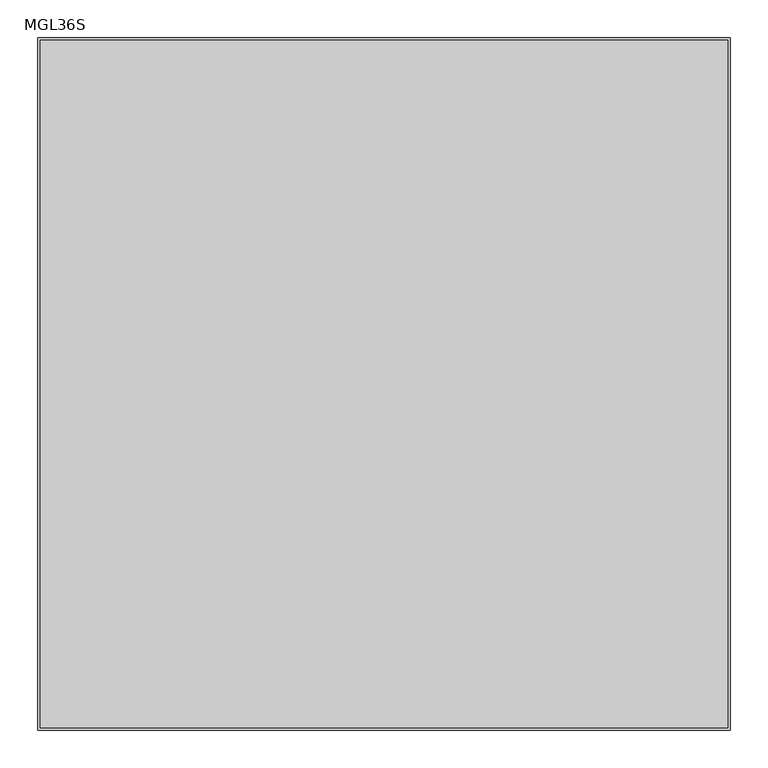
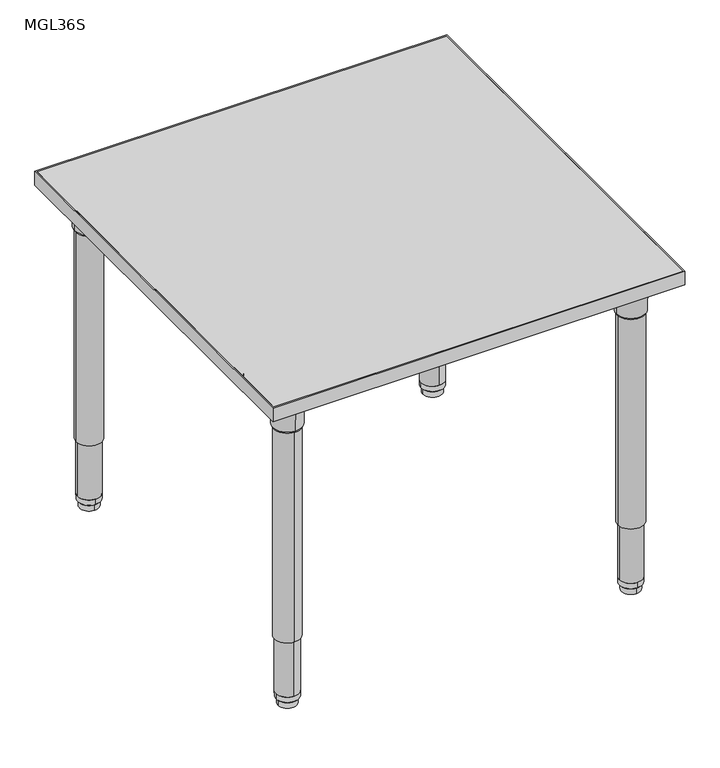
"""IFC4 building model written with IfcOpenShell, lengths in millimetres: furniture geometry, ERG-Mingle-Table-Square : MGL36S."""

from ifc_helpers import new_model, si_unit, point, frame, frame_2d, origin, place, context, project, spatial, polyline, circle_curve, trimmed, segment, composite_curve, outline, extrude, source, transform, mapped, element, save
from ifc_brep_helpers import plane_surface, cylinder_surface, revolved_surface, advanced_brep


def mgl36s_a372faff(model_context):
    return source(origin(), model_context, "Body", "SolidModel", [
        advanced_brep(
        [(350.9646842, -381.0, 650.5933069), (411.0353158, -381.0, 650.5933069), (381.0, -381.0, 650.5933069), (348.856117, -381.0, 654.3580481), (413.143883, -381.0, 654.3580481), (347.9206351, -381.0, 707.7631458), (414.0793649, -381.0, 707.7631458), (344.471083, -381.0, 714.1198315), (417.528917, -381.0, 714.1198315), (344.471083, -381.0, 726.8198315), (417.528917, -381.0, 726.8198315), (381.0, -381.0, 726.8198315)],
        [
            (0, 1, circle_curve(frame((381.0, -381.0, 650.5933069), z_axis=(0.0, 0.0, -1.0), x_axis=(1.0, 0.0, 0.0)), 30.0353158)),
            (1, 2),
            (2, 0),
            (1, 0, circle_curve(frame((381.0, -381.0, 650.5933069), z_axis=(0.0, 0.0, -1.0), x_axis=(1.0, 0.0, 0.0)), 30.0353158)),
            (3, 4, circle_curve(frame((381.0, -381.0, 654.3580481), z_axis=(0.0, 0.0, -1.0), x_axis=(1.0, 0.0, 0.0)), 32.143883)),
            (4, 1),
            (0, 3),
            (4, 3, circle_curve(frame((381.0, -381.0, 654.3580481), z_axis=(0.0, 0.0, -1.0), x_axis=(1.0, 0.0, 0.0)), 32.143883)),
            (5, 6, circle_curve(frame((381.0, -381.0, 707.7631458), z_axis=(0.0, 0.0, -1.0), x_axis=(1.0, 0.0, 0.0)), 33.0793649)),
            (6, 4),
            (3, 5),
            (6, 5, circle_curve(frame((381.0, -381.0, 707.7631458), z_axis=(0.0, 0.0, -1.0), x_axis=(1.0, 0.0, 0.0)), 33.0793649)),
            (7, 8, circle_curve(frame((381.0, -381.0, 714.1198315), z_axis=(0.0, 0.0, -1.0), x_axis=(1.0, 0.0, 0.0)), 36.528917)),
            (8, 6),
            (5, 7),
            (8, 7, circle_curve(frame((381.0, -381.0, 714.1198315), z_axis=(0.0, 0.0, -1.0), x_axis=(1.0, 0.0, 0.0)), 36.528917)),
            (9, 10, circle_curve(frame((381.0, -381.0, 726.8198315), z_axis=(0.0, 0.0, -1.0), x_axis=(1.0, 0.0, 0.0)), 36.528917)),
            (10, 8),
            (7, 9),
            (10, 9, circle_curve(frame((381.0, -381.0, 726.8198315), z_axis=(0.0, 0.0, -1.0), x_axis=(1.0, 0.0, 0.0)), 36.528917)),
            (11, 10),
            (9, 11),
        ],
        [
            plane_surface(frame((381.0, -381.0, 650.5933069), z_axis=(0.0, 0.0, -1.0), x_axis=(1.0, 0.0, 0.0))),
            revolved_surface(polyline([(411.0353158, -381.0, 650.5933069), (413.143883, -381.0, 654.3580481)]), (381.0, -381.0, 726.8198315), (0.0, 0.0, 1.0)),
            revolved_surface(polyline([(413.143883, -381.0, 654.3580481), (414.0793649, -381.0, 707.7631458)]), (381.0, -381.0, 726.8198315), (0.0, 0.0, 1.0)),
            revolved_surface(polyline([(414.0793649, -381.0, 707.7631458), (417.528917, -381.0, 714.1198315)]), (381.0, -381.0, 726.8198315), (0.0, 0.0, 1.0)),
            cylinder_surface(frame((381.0, -381.0, 726.8198315), z_axis=(0.0, 0.0, 1.0), x_axis=(1.0, 0.0, 0.0)), 36.528917),
            plane_surface(frame((381.0, -381.0, 726.8198315), z_axis=(0.0, 0.0, 1.0), x_axis=(1.0, 0.0, 0.0))),
        ],
        [
            (0, [[1, 2, 3]]),
            (0, [[4, -3, -2]]),
            (1, [[5, 6, -1, 7]]),
            (1, [[8, -7, -4, -6]]),
            (2, [[9, 10, -5, 11]]),
            (2, [[12, -11, -8, -10]]),
            (3, [[13, 14, -9, 15]]),
            (3, [[16, -15, -12, -14]]),
            (4, [[17, 18, -13, 19]]),
            (4, [[20, -19, -16, -18]]),
            (5, [[21, -17, 22]]),
            (5, [[-22, -20, -21]]),
        ],
    ),
        extrude(outline(composite_curve([segment(polyline([(426.873768, -298.4223426), (426.873768, -412.1483754)]), True, "CONTINUOUS"), segment(trimmed(circle_curve(frame_2d((410.998768, -412.1483754)), 15.875), [point((426.873768, -412.1483754))], [point((410.998768, -428.0233754))], False, "CARTESIAN"), True, "CONTINUOUS"), segment(polyline([(410.998768, -428.0233754), (297.2864205, -428.0233754)]), True, "CONTINUOUS"), segment(trimmed(circle_curve(frame_2d((297.2864205, -415.3233754)), 12.7), [point((297.2864205, -428.0233754))], [point((284.6491923, -414.0622394))], False, "CARTESIAN"), True, "CONTINUOUS"), segment(trimmed(circle_curve(frame_2d((427.1486077, -428.2830117)), 143.2072406), [point((284.6491923, -414.0622394))], [point((412.9111525, -285.7852622))], False, "CARTESIAN"), True, "CONTINUOUS"), segment(trimmed(circle_curve(frame_2d((414.173768, -298.4223426)), 12.7), [point((412.9111525, -285.7852622))], [point((426.873768, -298.4223426))], False, "CARTESIAN"), True, "CONTINUOUS")], self_intersect=False)), frame((0.0, 0.0, 726.8198315), z_axis=(0.0, 0.0, 1.0), x_axis=(1.0, 0.0, 0.0)), (0.0, 0.0, 1.0), 3.4301685),
        extrude(outline(composite_curve([segment(trimmed(circle_curve(frame_2d((381.0, -381.0)), 28.575), [point((409.575, -381.0))], [point((352.425, -381.0))], False, "CARTESIAN"), True, "CONTINUOUS"), segment(trimmed(circle_curve(frame_2d((381.0, -381.0)), 28.575), [point((352.425, -381.0))], [point((409.575, -381.0))], False, "CARTESIAN"), True, "CONTINUOUS")], self_intersect=False)), frame((0.0, 0.0, 158.3876979), z_axis=(0.0, 0.0, 1.0), x_axis=(1.0, 0.0, 0.0)), (0.0, 0.0, 1.0), 495.4089866),
        extrude(outline(composite_curve([segment(trimmed(circle_curve(frame_2d((381.0, -381.0)), 25.4), [point((406.4, -381.0))], [point((355.6, -381.0))], False, "CARTESIAN"), True, "CONTINUOUS"), segment(trimmed(circle_curve(frame_2d((381.0, -381.0)), 25.4), [point((355.6, -381.0))], [point((406.4, -381.0))], False, "CARTESIAN"), True, "CONTINUOUS")], self_intersect=False)), frame((0.0, 0.0, 28.9580435), z_axis=(0.0, 0.0, 1.0), x_axis=(1.0, 0.0, 0.0)), (0.0, 0.0, 1.0), 176.7049119),
        advanced_brep(
        [(381.0, -355.7649896, 28.9580185), (381.0, -406.2350104, 28.9580185), (381.0, -381.0, 28.9580185), (381.0, -355.900761, 16.3032949), (381.0, -406.099239, 16.3032949), (381.0, -357.4160619, 14.7291007), (381.0, -404.5839381, 14.7291007), (381.0, -359.8591422, 14.7291007), (381.0, -402.1408578, 14.7291007), (381.0, -360.0521336, 0.0), (381.0, -401.9478664, 0.0), (381.0, -381.0, 0.0)],
        [
            (0, 1, circle_curve(frame((381.0, -381.0, 28.9580185), z_axis=(0.0, 0.0, 1.0), x_axis=(0.0, -1.0, 0.0)), 25.2350104)),
            (1, 2),
            (2, 0),
            (1, 0, circle_curve(frame((381.0, -381.0, 28.9580185), z_axis=(0.0, 0.0, 1.0), x_axis=(0.0, -1.0, 0.0)), 25.2350104)),
            (3, 4, circle_curve(frame((381.0, -381.0, 16.3032949), z_axis=(0.0, 0.0, 1.0), x_axis=(0.0, -1.0, 0.0)), 25.099239)),
            (4, 1),
            (0, 3),
            (4, 3, circle_curve(frame((381.0, -381.0, 16.3032949), z_axis=(0.0, 0.0, 1.0), x_axis=(0.0, -1.0, 0.0)), 25.099239)),
            (5, 6, circle_curve(frame((381.0, -381.0, 14.7291007), z_axis=(0.0, 0.0, 1.0), x_axis=(0.0, -1.0, 0.0)), 23.5839381)),
            (6, 4),
            (3, 5),
            (6, 5, circle_curve(frame((381.0, -381.0, 14.7291007), z_axis=(0.0, 0.0, 1.0), x_axis=(0.0, -1.0, 0.0)), 23.5839381)),
            (7, 8, circle_curve(frame((381.0, -381.0, 14.7291007), z_axis=(0.0, 0.0, 1.0), x_axis=(0.0, -1.0, 0.0)), 21.1408578)),
            (8, 6),
            (5, 7),
            (8, 7, circle_curve(frame((381.0, -381.0, 14.7291007), z_axis=(0.0, 0.0, 1.0), x_axis=(0.0, -1.0, 0.0)), 21.1408578)),
            (9, 10, circle_curve(frame((381.0, -381.0, 0.0), z_axis=(0.0, 0.0, 1.0), x_axis=(0.0, -1.0, 0.0)), 20.9478664)),
            (10, 8),
            (7, 9),
            (10, 9, circle_curve(frame((381.0, -381.0, 0.0), z_axis=(0.0, 0.0, 1.0), x_axis=(0.0, -1.0, 0.0)), 20.9478664)),
            (11, 10),
            (9, 11),
        ],
        [
            plane_surface(frame((381.0, -381.0, 28.9580185), z_axis=(0.0, 0.0, 1.0), x_axis=(0.0, -1.0, 0.0))),
            revolved_surface(polyline([(381.0, -406.2350104, 28.9580185), (381.0, -406.099239, 16.3032949)]), (381.0, -381.0, 0.0), (0.0, 0.0, -1.0)),
            revolved_surface(polyline([(381.0, -406.099239, 16.3032949), (381.0, -404.5839381, 14.7291007)]), (381.0, -381.0, 0.0), (0.0, 0.0, -1.0)),
            plane_surface(frame((381.0, -381.0, 14.7291007), z_axis=(0.0, 0.0, -1.0), x_axis=(0.0, -1.0, 0.0))),
            revolved_surface(polyline([(381.0, -402.1408578, 14.7291007), (381.0, -401.9478664, 0.0)]), (381.0, -381.0, 0.0), (0.0, 0.0, -1.0)),
            plane_surface(frame((381.0, -381.0, 0.0), z_axis=(0.0, 0.0, -1.0), x_axis=(0.0, -1.0, 0.0))),
        ],
        [
            (0, [[1, 2, 3]]),
            (0, [[4, -3, -2]]),
            (1, [[5, 6, -1, 7]]),
            (1, [[8, -7, -4, -6]]),
            (2, [[9, 10, -5, 11]]),
            (2, [[12, -11, -8, -10]]),
            (3, [[13, 14, -9, 15]]),
            (3, [[16, -15, -12, -14]]),
            (4, [[17, 18, -13, 19]]),
            (4, [[20, -19, -16, -18]]),
            (5, [[21, -17, 22]]),
            (5, [[-22, -20, -21]]),
        ],
    ),
        advanced_brep(
        [(-381.0, -350.9646842, 650.5933069), (-381.0, -411.0353158, 650.5933069), (-381.0, -381.0, 650.5933069), (-381.0, -348.856117, 654.3580481), (-381.0, -413.143883, 654.3580481), (-381.0, -347.9206351, 707.7631458), (-381.0, -414.0793649, 707.7631458), (-381.0, -344.471083, 714.1198315), (-381.0, -417.528917, 714.1198315), (-381.0, -344.471083, 726.8198315), (-381.0, -417.528917, 726.8198315), (-381.0, -381.0, 726.8198315)],
        [
            (0, 1, circle_curve(frame((-381.0, -381.0, 650.5933069), z_axis=(0.0, 0.0, -1.0), x_axis=(0.0, -1.0, 0.0)), 30.0353158)),
            (1, 2),
            (2, 0),
            (1, 0, circle_curve(frame((-381.0, -381.0, 650.5933069), z_axis=(0.0, 0.0, -1.0), x_axis=(0.0, -1.0, 0.0)), 30.0353158)),
            (3, 4, circle_curve(frame((-381.0, -381.0, 654.3580481), z_axis=(0.0, 0.0, -1.0), x_axis=(0.0, -1.0, 0.0)), 32.143883)),
            (4, 1),
            (0, 3),
            (4, 3, circle_curve(frame((-381.0, -381.0, 654.3580481), z_axis=(0.0, 0.0, -1.0), x_axis=(0.0, -1.0, 0.0)), 32.143883)),
            (5, 6, circle_curve(frame((-381.0, -381.0, 707.7631458), z_axis=(0.0, 0.0, -1.0), x_axis=(0.0, -1.0, 0.0)), 33.0793649)),
            (6, 4),
            (3, 5),
            (6, 5, circle_curve(frame((-381.0, -381.0, 707.7631458), z_axis=(0.0, 0.0, -1.0), x_axis=(0.0, -1.0, 0.0)), 33.0793649)),
            (7, 8, circle_curve(frame((-381.0, -381.0, 714.1198315), z_axis=(0.0, 0.0, -1.0), x_axis=(0.0, -1.0, 0.0)), 36.528917)),
            (8, 6),
            (5, 7),
            (8, 7, circle_curve(frame((-381.0, -381.0, 714.1198315), z_axis=(0.0, 0.0, -1.0), x_axis=(0.0, -1.0, 0.0)), 36.528917)),
            (9, 10, circle_curve(frame((-381.0, -381.0, 726.8198315), z_axis=(0.0, 0.0, -1.0), x_axis=(0.0, -1.0, 0.0)), 36.528917)),
            (10, 8),
            (7, 9),
            (10, 9, circle_curve(frame((-381.0, -381.0, 726.8198315), z_axis=(0.0, 0.0, -1.0), x_axis=(0.0, -1.0, 0.0)), 36.528917)),
            (11, 10),
            (9, 11),
        ],
        [
            plane_surface(frame((-381.0, -381.0, 650.5933069), z_axis=(0.0, 0.0, -1.0), x_axis=(0.0, -1.0, 0.0))),
            revolved_surface(polyline([(-381.0, -411.0353158, 650.5933069), (-381.0, -413.143883, 654.3580481)]), (-381.0, -381.0, 726.8198315), (0.0, 0.0, 1.0)),
            revolved_surface(polyline([(-381.0, -413.143883, 654.3580481), (-381.0, -414.0793649, 707.7631458)]), (-381.0, -381.0, 726.8198315), (0.0, 0.0, 1.0)),
            revolved_surface(polyline([(-381.0, -414.0793649, 707.7631458), (-381.0, -417.528917, 714.1198315)]), (-381.0, -381.0, 726.8198315), (0.0, 0.0, 1.0)),
            cylinder_surface(frame((-381.0, -381.0, 726.8198315), z_axis=(0.0, 0.0, 1.0), x_axis=(0.0, -1.0, 0.0)), 36.528917),
            plane_surface(frame((-381.0, -381.0, 726.8198315), z_axis=(0.0, 0.0, 1.0), x_axis=(0.0, -1.0, 0.0))),
        ],
        [
            (0, [[1, 2, 3]]),
            (0, [[4, -3, -2]]),
            (1, [[5, 6, -1, 7]]),
            (1, [[8, -7, -4, -6]]),
            (2, [[9, 10, -5, 11]]),
            (2, [[12, -11, -8, -10]]),
            (3, [[13, 14, -9, 15]]),
            (3, [[16, -15, -12, -14]]),
            (4, [[17, 18, -13, 19]]),
            (4, [[20, -19, -16, -18]]),
            (5, [[21, -17, 22]]),
            (5, [[-22, -20, -21]]),
        ],
    ),
        extrude(outline(composite_curve([segment(polyline([(-298.4223426, -426.873768), (-412.1483754, -426.873768)]), True, "CONTINUOUS"), segment(trimmed(circle_curve(frame_2d((-412.1483754, -410.998768)), 15.875), [point((-412.1483754, -426.873768))], [point((-428.0233754, -410.998768))], False, "CARTESIAN"), True, "CONTINUOUS"), segment(polyline([(-428.0233754, -410.998768), (-428.0233754, -297.2864205)]), True, "CONTINUOUS"), segment(trimmed(circle_curve(frame_2d((-415.3233754, -297.2864205)), 12.7), [point((-428.0233754, -297.2864205))], [point((-414.0622394, -284.6491923))], False, "CARTESIAN"), True, "CONTINUOUS"), segment(trimmed(circle_curve(frame_2d((-428.2830117, -427.1486077)), 143.2072406), [point((-414.0622394, -284.6491923))], [point((-285.7852622, -412.9111525))], False, "CARTESIAN"), True, "CONTINUOUS"), segment(trimmed(circle_curve(frame_2d((-298.4223426, -414.173768)), 12.7), [point((-285.7852622, -412.9111525))], [point((-298.4223426, -426.873768))], False, "CARTESIAN"), True, "CONTINUOUS")], self_intersect=False)), frame((0.0, 0.0, 726.8198315), z_axis=(0.0, 0.0, 1.0), x_axis=(1.0, 0.0, 0.0)), (0.0, 0.0, 1.0), 3.4301685),
        extrude(outline(composite_curve([segment(trimmed(circle_curve(frame_2d((-381.0, -381.0)), 28.575), [point((-381.0, -409.575))], [point((-381.0, -352.425))], False, "CARTESIAN"), True, "CONTINUOUS"), segment(trimmed(circle_curve(frame_2d((-381.0, -381.0)), 28.575), [point((-381.0, -352.425))], [point((-381.0, -409.575))], False, "CARTESIAN"), True, "CONTINUOUS")], self_intersect=False)), frame((0.0, 0.0, 158.3876979), z_axis=(0.0, 0.0, 1.0), x_axis=(1.0, 0.0, 0.0)), (0.0, 0.0, 1.0), 495.4089866),
        extrude(outline(composite_curve([segment(trimmed(circle_curve(frame_2d((-381.0, -381.0)), 25.4), [point((-381.0, -406.4))], [point((-381.0, -355.6))], False, "CARTESIAN"), True, "CONTINUOUS"), segment(trimmed(circle_curve(frame_2d((-381.0, -381.0)), 25.4), [point((-381.0, -355.6))], [point((-381.0, -406.4))], False, "CARTESIAN"), True, "CONTINUOUS")], self_intersect=False)), frame((0.0, 0.0, 28.9580435), z_axis=(0.0, 0.0, 1.0), x_axis=(1.0, 0.0, 0.0)), (0.0, 0.0, 1.0), 176.7049119),
        advanced_brep(
        [(-355.7649896, -381.0, 28.9580185), (-406.2350104, -381.0, 28.9580185), (-381.0, -381.0, 28.9580185), (-355.900761, -381.0, 16.3032949), (-406.099239, -381.0, 16.3032949), (-357.4160619, -381.0, 14.7291007), (-404.5839381, -381.0, 14.7291007), (-359.8591422, -381.0, 14.7291007), (-402.1408578, -381.0, 14.7291007), (-360.0521336, -381.0, 0.0), (-401.9478664, -381.0, 0.0), (-381.0, -381.0, 0.0)],
        [
            (0, 1, circle_curve(frame((-381.0, -381.0, 28.9580185), z_axis=(0.0, 0.0, 1.0), x_axis=(-1.0, 0.0, 0.0)), 25.2350104)),
            (1, 2),
            (2, 0),
            (1, 0, circle_curve(frame((-381.0, -381.0, 28.9580185), z_axis=(0.0, 0.0, 1.0), x_axis=(-1.0, 0.0, 0.0)), 25.2350104)),
            (3, 4, circle_curve(frame((-381.0, -381.0, 16.3032949), z_axis=(0.0, 0.0, 1.0), x_axis=(-1.0, 0.0, 0.0)), 25.099239)),
            (4, 1),
            (0, 3),
            (4, 3, circle_curve(frame((-381.0, -381.0, 16.3032949), z_axis=(0.0, 0.0, 1.0), x_axis=(-1.0, 0.0, 0.0)), 25.099239)),
            (5, 6, circle_curve(frame((-381.0, -381.0, 14.7291007), z_axis=(0.0, 0.0, 1.0), x_axis=(-1.0, 0.0, 0.0)), 23.5839381)),
            (6, 4),
            (3, 5),
            (6, 5, circle_curve(frame((-381.0, -381.0, 14.7291007), z_axis=(0.0, 0.0, 1.0), x_axis=(-1.0, 0.0, 0.0)), 23.5839381)),
            (7, 8, circle_curve(frame((-381.0, -381.0, 14.7291007), z_axis=(0.0, 0.0, 1.0), x_axis=(-1.0, 0.0, 0.0)), 21.1408578)),
            (8, 6),
            (5, 7),
            (8, 7, circle_curve(frame((-381.0, -381.0, 14.7291007), z_axis=(0.0, 0.0, 1.0), x_axis=(-1.0, 0.0, 0.0)), 21.1408578)),
            (9, 10, circle_curve(frame((-381.0, -381.0, 0.0), z_axis=(0.0, 0.0, 1.0), x_axis=(-1.0, 0.0, 0.0)), 20.9478664)),
            (10, 8),
            (7, 9),
            (10, 9, circle_curve(frame((-381.0, -381.0, 0.0), z_axis=(0.0, 0.0, 1.0), x_axis=(-1.0, 0.0, 0.0)), 20.9478664)),
            (11, 10),
            (9, 11),
        ],
        [
            plane_surface(frame((-381.0, -381.0, 28.9580185), z_axis=(0.0, 0.0, 1.0), x_axis=(-1.0, 0.0, 0.0))),
            revolved_surface(polyline([(-406.2350104, -381.0, 28.9580185), (-406.099239, -381.0, 16.3032949)]), (-381.0, -381.0, 0.0), (0.0, 0.0, -1.0)),
            revolved_surface(polyline([(-406.099239, -381.0, 16.3032949), (-404.5839381, -381.0, 14.7291007)]), (-381.0, -381.0, 0.0), (0.0, 0.0, -1.0)),
            plane_surface(frame((-381.0, -381.0, 14.7291007), z_axis=(0.0, 0.0, -1.0), x_axis=(-1.0, 0.0, 0.0))),
            revolved_surface(polyline([(-402.1408578, -381.0, 14.7291007), (-401.9478664, -381.0, 0.0)]), (-381.0, -381.0, 0.0), (0.0, 0.0, -1.0)),
            plane_surface(frame((-381.0, -381.0, 0.0), z_axis=(0.0, 0.0, -1.0), x_axis=(-1.0, 0.0, 0.0))),
        ],
        [
            (0, [[1, 2, 3]]),
            (0, [[4, -3, -2]]),
            (1, [[5, 6, -1, 7]]),
            (1, [[8, -7, -4, -6]]),
            (2, [[9, 10, -5, 11]]),
            (2, [[12, -11, -8, -10]]),
            (3, [[13, 14, -9, 15]]),
            (3, [[16, -15, -12, -14]]),
            (4, [[17, 18, -13, 19]]),
            (4, [[20, -19, -16, -18]]),
            (5, [[21, -17, 22]]),
            (5, [[-22, -20, -21]]),
        ],
    ),
        advanced_brep(
        [(381.0, 350.9646842, 650.5933069), (381.0, 411.0353158, 650.5933069), (381.0, 381.0, 650.5933069), (381.0, 348.856117, 654.3580481), (381.0, 413.143883, 654.3580481), (381.0, 347.9206351, 707.7631458), (381.0, 414.0793649, 707.7631458), (381.0, 344.471083, 714.1198315), (381.0, 417.528917, 714.1198315), (381.0, 344.471083, 726.8198315), (381.0, 417.528917, 726.8198315), (381.0, 381.0, 726.8198315)],
        [
            (0, 1, circle_curve(frame((381.0, 381.0, 650.5933069), z_axis=(0.0, 0.0, -1.0), x_axis=(0.0, 1.0, 0.0)), 30.0353158)),
            (1, 2),
            (2, 0),
            (1, 0, circle_curve(frame((381.0, 381.0, 650.5933069), z_axis=(0.0, 0.0, -1.0), x_axis=(0.0, 1.0, 0.0)), 30.0353158)),
            (3, 4, circle_curve(frame((381.0, 381.0, 654.3580481), z_axis=(0.0, 0.0, -1.0), x_axis=(0.0, 1.0, 0.0)), 32.143883)),
            (4, 1),
            (0, 3),
            (4, 3, circle_curve(frame((381.0, 381.0, 654.3580481), z_axis=(0.0, 0.0, -1.0), x_axis=(0.0, 1.0, 0.0)), 32.143883)),
            (5, 6, circle_curve(frame((381.0, 381.0, 707.7631458), z_axis=(0.0, 0.0, -1.0), x_axis=(0.0, 1.0, 0.0)), 33.0793649)),
            (6, 4),
            (3, 5),
            (6, 5, circle_curve(frame((381.0, 381.0, 707.7631458), z_axis=(0.0, 0.0, -1.0), x_axis=(0.0, 1.0, 0.0)), 33.0793649)),
            (7, 8, circle_curve(frame((381.0, 381.0, 714.1198315), z_axis=(0.0, 0.0, -1.0), x_axis=(0.0, 1.0, 0.0)), 36.528917)),
            (8, 6),
            (5, 7),
            (8, 7, circle_curve(frame((381.0, 381.0, 714.1198315), z_axis=(0.0, 0.0, -1.0), x_axis=(0.0, 1.0, 0.0)), 36.528917)),
            (9, 10, circle_curve(frame((381.0, 381.0, 726.8198315), z_axis=(0.0, 0.0, -1.0), x_axis=(0.0, 1.0, 0.0)), 36.528917)),
            (10, 8),
            (7, 9),
            (10, 9, circle_curve(frame((381.0, 381.0, 726.8198315), z_axis=(0.0, 0.0, -1.0), x_axis=(0.0, 1.0, 0.0)), 36.528917)),
            (11, 10),
            (9, 11),
        ],
        [
            plane_surface(frame((381.0, 381.0, 650.5933069), z_axis=(0.0, 0.0, -1.0), x_axis=(0.0, 1.0, 0.0))),
            revolved_surface(polyline([(381.0, 411.0353158, 650.5933069), (381.0, 413.143883, 654.3580481)]), (381.0, 381.0, 726.8198315), (0.0, 0.0, 1.0)),
            revolved_surface(polyline([(381.0, 413.143883, 654.3580481), (381.0, 414.0793649, 707.7631458)]), (381.0, 381.0, 726.8198315), (0.0, 0.0, 1.0)),
            revolved_surface(polyline([(381.0, 414.0793649, 707.7631458), (381.0, 417.528917, 714.1198315)]), (381.0, 381.0, 726.8198315), (0.0, 0.0, 1.0)),
            cylinder_surface(frame((381.0, 381.0, 726.8198315), z_axis=(0.0, 0.0, 1.0), x_axis=(0.0, 1.0, 0.0)), 36.528917),
            plane_surface(frame((381.0, 381.0, 726.8198315), z_axis=(0.0, 0.0, 1.0), x_axis=(0.0, 1.0, 0.0))),
        ],
        [
            (0, [[1, 2, 3]]),
            (0, [[4, -3, -2]]),
            (1, [[5, 6, -1, 7]]),
            (1, [[8, -7, -4, -6]]),
            (2, [[9, 10, -5, 11]]),
            (2, [[12, -11, -8, -10]]),
            (3, [[13, 14, -9, 15]]),
            (3, [[16, -15, -12, -14]]),
            (4, [[17, 18, -13, 19]]),
            (4, [[20, -19, -16, -18]]),
            (5, [[21, -17, 22]]),
            (5, [[-22, -20, -21]]),
        ],
    ),
        extrude(outline(composite_curve([segment(polyline([(298.4223426, 426.873768), (412.1483754, 426.873768)]), True, "CONTINUOUS"), segment(trimmed(circle_curve(frame_2d((412.1483754, 410.998768)), 15.875), [point((412.1483754, 426.873768))], [point((428.0233754, 410.998768))], False, "CARTESIAN"), True, "CONTINUOUS"), segment(polyline([(428.0233754, 410.998768), (428.0233754, 297.2864205)]), True, "CONTINUOUS"), segment(trimmed(circle_curve(frame_2d((415.3233754, 297.2864205)), 12.7), [point((428.0233754, 297.2864205))], [point((414.0622394, 284.6491923))], False, "CARTESIAN"), True, "CONTINUOUS"), segment(trimmed(circle_curve(frame_2d((428.2830117, 427.1486077)), 143.2072406), [point((414.0622394, 284.6491923))], [point((285.7852622, 412.9111525))], False, "CARTESIAN"), True, "CONTINUOUS"), segment(trimmed(circle_curve(frame_2d((298.4223426, 414.173768)), 12.7), [point((285.7852622, 412.9111525))], [point((298.4223426, 426.873768))], False, "CARTESIAN"), True, "CONTINUOUS")], self_intersect=False)), frame((0.0, 0.0, 726.8198315), z_axis=(0.0, 0.0, 1.0), x_axis=(1.0, 0.0, 0.0)), (0.0, 0.0, 1.0), 3.4301685),
        extrude(outline(composite_curve([segment(trimmed(circle_curve(frame_2d((381.0, 381.0)), 28.575), [point((381.0, 409.575))], [point((381.0, 352.425))], False, "CARTESIAN"), True, "CONTINUOUS"), segment(trimmed(circle_curve(frame_2d((381.0, 381.0)), 28.575), [point((381.0, 352.425))], [point((381.0, 409.575))], False, "CARTESIAN"), True, "CONTINUOUS")], self_intersect=False)), frame((0.0, 0.0, 158.3876979), z_axis=(0.0, 0.0, 1.0), x_axis=(1.0, 0.0, 0.0)), (0.0, 0.0, 1.0), 495.4089866),
        extrude(outline(composite_curve([segment(trimmed(circle_curve(frame_2d((381.0, 381.0)), 25.4), [point((381.0, 406.4))], [point((381.0, 355.6))], False, "CARTESIAN"), True, "CONTINUOUS"), segment(trimmed(circle_curve(frame_2d((381.0, 381.0)), 25.4), [point((381.0, 355.6))], [point((381.0, 406.4))], False, "CARTESIAN"), True, "CONTINUOUS")], self_intersect=False)), frame((0.0, 0.0, 28.9580435), z_axis=(0.0, 0.0, 1.0), x_axis=(1.0, 0.0, 0.0)), (0.0, 0.0, 1.0), 176.7049119),
        advanced_brep(
        [(355.7649896, 381.0, 28.9580185), (406.2350104, 381.0, 28.9580185), (381.0, 381.0, 28.9580185), (355.900761, 381.0, 16.3032949), (406.099239, 381.0, 16.3032949), (357.4160619, 381.0, 14.7291007), (404.5839381, 381.0, 14.7291007), (359.8591422, 381.0, 14.7291007), (402.1408578, 381.0, 14.7291007), (360.0521336, 381.0, 0.0), (401.9478664, 381.0, 0.0), (381.0, 381.0, 0.0)],
        [
            (0, 1, circle_curve(frame((381.0, 381.0, 28.9580185), z_axis=(0.0, 0.0, 1.0), x_axis=(1.0, 0.0, 0.0)), 25.2350104)),
            (1, 2),
            (2, 0),
            (1, 0, circle_curve(frame((381.0, 381.0, 28.9580185), z_axis=(0.0, 0.0, 1.0), x_axis=(1.0, 0.0, 0.0)), 25.2350104)),
            (3, 4, circle_curve(frame((381.0, 381.0, 16.3032949), z_axis=(0.0, 0.0, 1.0), x_axis=(1.0, 0.0, 0.0)), 25.099239)),
            (4, 1),
            (0, 3),
            (4, 3, circle_curve(frame((381.0, 381.0, 16.3032949), z_axis=(0.0, 0.0, 1.0), x_axis=(1.0, 0.0, 0.0)), 25.099239)),
            (5, 6, circle_curve(frame((381.0, 381.0, 14.7291007), z_axis=(0.0, 0.0, 1.0), x_axis=(1.0, 0.0, 0.0)), 23.5839381)),
            (6, 4),
            (3, 5),
            (6, 5, circle_curve(frame((381.0, 381.0, 14.7291007), z_axis=(0.0, 0.0, 1.0), x_axis=(1.0, 0.0, 0.0)), 23.5839381)),
            (7, 8, circle_curve(frame((381.0, 381.0, 14.7291007), z_axis=(0.0, 0.0, 1.0), x_axis=(1.0, 0.0, 0.0)), 21.1408578)),
            (8, 6),
            (5, 7),
            (8, 7, circle_curve(frame((381.0, 381.0, 14.7291007), z_axis=(0.0, 0.0, 1.0), x_axis=(1.0, 0.0, 0.0)), 21.1408578)),
            (9, 10, circle_curve(frame((381.0, 381.0, 0.0), z_axis=(0.0, 0.0, 1.0), x_axis=(1.0, 0.0, 0.0)), 20.9478664)),
            (10, 8),
            (7, 9),
            (10, 9, circle_curve(frame((381.0, 381.0, 0.0), z_axis=(0.0, 0.0, 1.0), x_axis=(1.0, 0.0, 0.0)), 20.9478664)),
            (11, 10),
            (9, 11),
        ],
        [
            plane_surface(frame((381.0, 381.0, 28.9580185), z_axis=(0.0, 0.0, 1.0), x_axis=(1.0, 0.0, 0.0))),
            revolved_surface(polyline([(406.2350104, 381.0, 28.9580185), (406.099239, 381.0, 16.3032949)]), (381.0, 381.0, 0.0), (0.0, 0.0, -1.0)),
            revolved_surface(polyline([(406.099239, 381.0, 16.3032949), (404.5839381, 381.0, 14.7291007)]), (381.0, 381.0, 0.0), (0.0, 0.0, -1.0)),
            plane_surface(frame((381.0, 381.0, 14.7291007), z_axis=(0.0, 0.0, -1.0), x_axis=(1.0, 0.0, 0.0))),
            revolved_surface(polyline([(402.1408578, 381.0, 14.7291007), (401.9478664, 381.0, 0.0)]), (381.0, 381.0, 0.0), (0.0, 0.0, -1.0)),
            plane_surface(frame((381.0, 381.0, 0.0), z_axis=(0.0, 0.0, -1.0), x_axis=(1.0, 0.0, 0.0))),
        ],
        [
            (0, [[1, 2, 3]]),
            (0, [[4, -3, -2]]),
            (1, [[5, 6, -1, 7]]),
            (1, [[8, -7, -4, -6]]),
            (2, [[9, 10, -5, 11]]),
            (2, [[12, -11, -8, -10]]),
            (3, [[13, 14, -9, 15]]),
            (3, [[16, -15, -12, -14]]),
            (4, [[17, 18, -13, 19]]),
            (4, [[20, -19, -16, -18]]),
            (5, [[21, -17, 22]]),
            (5, [[-22, -20, -21]]),
        ],
    ),
        advanced_brep(
        [(-350.9646842, 381.0, 650.5933069), (-411.0353158, 381.0, 650.5933069), (-381.0, 381.0, 650.5933069), (-348.856117, 381.0, 654.3580481), (-413.143883, 381.0, 654.3580481), (-347.9206351, 381.0, 707.7631458), (-414.0793649, 381.0, 707.7631458), (-344.471083, 381.0, 714.1198315), (-417.528917, 381.0, 714.1198315), (-344.471083, 381.0, 726.8198315), (-417.528917, 381.0, 726.8198315), (-381.0, 381.0, 726.8198315)],
        [
            (0, 1, circle_curve(frame((-381.0, 381.0, 650.5933069), z_axis=(0.0, 0.0, -1.0), x_axis=(-1.0, 0.0, 0.0)), 30.0353158)),
            (1, 2),
            (2, 0),
            (1, 0, circle_curve(frame((-381.0, 381.0, 650.5933069), z_axis=(0.0, 0.0, -1.0), x_axis=(-1.0, 0.0, 0.0)), 30.0353158)),
            (3, 4, circle_curve(frame((-381.0, 381.0, 654.3580481), z_axis=(0.0, 0.0, -1.0), x_axis=(-1.0, 0.0, 0.0)), 32.143883)),
            (4, 1),
            (0, 3),
            (4, 3, circle_curve(frame((-381.0, 381.0, 654.3580481), z_axis=(0.0, 0.0, -1.0), x_axis=(-1.0, 0.0, 0.0)), 32.143883)),
            (5, 6, circle_curve(frame((-381.0, 381.0, 707.7631458), z_axis=(0.0, 0.0, -1.0), x_axis=(-1.0, 0.0, 0.0)), 33.0793649)),
            (6, 4),
            (3, 5),
            (6, 5, circle_curve(frame((-381.0, 381.0, 707.7631458), z_axis=(0.0, 0.0, -1.0), x_axis=(-1.0, 0.0, 0.0)), 33.0793649)),
            (7, 8, circle_curve(frame((-381.0, 381.0, 714.1198315), z_axis=(0.0, 0.0, -1.0), x_axis=(-1.0, 0.0, 0.0)), 36.528917)),
            (8, 6),
            (5, 7),
            (8, 7, circle_curve(frame((-381.0, 381.0, 714.1198315), z_axis=(0.0, 0.0, -1.0), x_axis=(-1.0, 0.0, 0.0)), 36.528917)),
            (9, 10, circle_curve(frame((-381.0, 381.0, 726.8198315), z_axis=(0.0, 0.0, -1.0), x_axis=(-1.0, 0.0, 0.0)), 36.528917)),
            (10, 8),
            (7, 9),
            (10, 9, circle_curve(frame((-381.0, 381.0, 726.8198315), z_axis=(0.0, 0.0, -1.0), x_axis=(-1.0, 0.0, 0.0)), 36.528917)),
            (11, 10),
            (9, 11),
        ],
        [
            plane_surface(frame((-381.0, 381.0, 650.5933069), z_axis=(0.0, 0.0, -1.0), x_axis=(-1.0, 0.0, 0.0))),
            revolved_surface(polyline([(-411.0353158, 381.0, 650.5933069), (-413.143883, 381.0, 654.3580481)]), (-381.0, 381.0, 726.8198315), (0.0, 0.0, 1.0)),
            revolved_surface(polyline([(-413.143883, 381.0, 654.3580481), (-414.0793649, 381.0, 707.7631458)]), (-381.0, 381.0, 726.8198315), (0.0, 0.0, 1.0)),
            revolved_surface(polyline([(-414.0793649, 381.0, 707.7631458), (-417.528917, 381.0, 714.1198315)]), (-381.0, 381.0, 726.8198315), (0.0, 0.0, 1.0)),
            cylinder_surface(frame((-381.0, 381.0, 726.8198315), z_axis=(0.0, 0.0, 1.0), x_axis=(-1.0, 0.0, 0.0)), 36.528917),
            plane_surface(frame((-381.0, 381.0, 726.8198315), z_axis=(0.0, 0.0, 1.0), x_axis=(-1.0, 0.0, 0.0))),
        ],
        [
            (0, [[1, 2, 3]]),
            (0, [[4, -3, -2]]),
            (1, [[5, 6, -1, 7]]),
            (1, [[8, -7, -4, -6]]),
            (2, [[9, 10, -5, 11]]),
            (2, [[12, -11, -8, -10]]),
            (3, [[13, 14, -9, 15]]),
            (3, [[16, -15, -12, -14]]),
            (4, [[17, 18, -13, 19]]),
            (4, [[20, -19, -16, -18]]),
            (5, [[21, -17, 22]]),
            (5, [[-22, -20, -21]]),
        ],
    ),
        extrude(outline(composite_curve([segment(polyline([(-426.873768, 298.4223426), (-426.873768, 412.1483754)]), True, "CONTINUOUS"), segment(trimmed(circle_curve(frame_2d((-410.998768, 412.1483754)), 15.875), [point((-426.873768, 412.1483754))], [point((-410.998768, 428.0233754))], False, "CARTESIAN"), True, "CONTINUOUS"), segment(polyline([(-410.998768, 428.0233754), (-297.2864205, 428.0233754)]), True, "CONTINUOUS"), segment(trimmed(circle_curve(frame_2d((-297.2864205, 415.3233754)), 12.7), [point((-297.2864205, 428.0233754))], [point((-284.6491923, 414.0622394))], False, "CARTESIAN"), True, "CONTINUOUS"), segment(trimmed(circle_curve(frame_2d((-427.1486077, 428.2830117)), 143.2072406), [point((-284.6491923, 414.0622394))], [point((-412.9111525, 285.7852622))], False, "CARTESIAN"), True, "CONTINUOUS"), segment(trimmed(circle_curve(frame_2d((-414.173768, 298.4223426)), 12.7), [point((-412.9111525, 285.7852622))], [point((-426.873768, 298.4223426))], False, "CARTESIAN"), True, "CONTINUOUS")], self_intersect=False)), frame((0.0, 0.0, 726.8198315), z_axis=(0.0, 0.0, 1.0), x_axis=(1.0, 0.0, 0.0)), (0.0, 0.0, 1.0), 3.4301685),
        extrude(outline(composite_curve([segment(trimmed(circle_curve(frame_2d((-381.0, 381.0)), 28.575), [point((-409.575, 381.0))], [point((-352.425, 381.0))], False, "CARTESIAN"), True, "CONTINUOUS"), segment(trimmed(circle_curve(frame_2d((-381.0, 381.0)), 28.575), [point((-352.425, 381.0))], [point((-409.575, 381.0))], False, "CARTESIAN"), True, "CONTINUOUS")], self_intersect=False)), frame((0.0, 0.0, 158.3876979), z_axis=(0.0, 0.0, 1.0), x_axis=(1.0, 0.0, 0.0)), (0.0, 0.0, 1.0), 495.4089866),
        extrude(outline(composite_curve([segment(trimmed(circle_curve(frame_2d((-381.0, 381.0)), 25.4), [point((-406.4, 381.0))], [point((-355.6, 381.0))], False, "CARTESIAN"), True, "CONTINUOUS"), segment(trimmed(circle_curve(frame_2d((-381.0, 381.0)), 25.4), [point((-355.6, 381.0))], [point((-406.4, 381.0))], False, "CARTESIAN"), True, "CONTINUOUS")], self_intersect=False)), frame((0.0, 0.0, 28.9580435), z_axis=(0.0, 0.0, 1.0), x_axis=(1.0, 0.0, 0.0)), (0.0, 0.0, 1.0), 176.7049119),
        advanced_brep(
        [(-381.0, 355.7649896, 28.9580185), (-381.0, 406.2350104, 28.9580185), (-381.0, 381.0, 28.9580185), (-381.0, 355.900761, 16.3032949), (-381.0, 406.099239, 16.3032949), (-381.0, 357.4160619, 14.7291007), (-381.0, 404.5839381, 14.7291007), (-381.0, 359.8591422, 14.7291007), (-381.0, 402.1408578, 14.7291007), (-381.0, 360.0521336, 0.0), (-381.0, 401.9478664, 0.0), (-381.0, 381.0, 0.0)],
        [
            (0, 1, circle_curve(frame((-381.0, 381.0, 28.9580185), z_axis=(0.0, 0.0, 1.0), x_axis=(0.0, 1.0, 0.0)), 25.2350104)),
            (1, 2),
            (2, 0),
            (1, 0, circle_curve(frame((-381.0, 381.0, 28.9580185), z_axis=(0.0, 0.0, 1.0), x_axis=(0.0, 1.0, 0.0)), 25.2350104)),
            (3, 4, circle_curve(frame((-381.0, 381.0, 16.3032949), z_axis=(0.0, 0.0, 1.0), x_axis=(0.0, 1.0, 0.0)), 25.099239)),
            (4, 1),
            (0, 3),
            (4, 3, circle_curve(frame((-381.0, 381.0, 16.3032949), z_axis=(0.0, 0.0, 1.0), x_axis=(0.0, 1.0, 0.0)), 25.099239)),
            (5, 6, circle_curve(frame((-381.0, 381.0, 14.7291007), z_axis=(0.0, 0.0, 1.0), x_axis=(0.0, 1.0, 0.0)), 23.5839381)),
            (6, 4),
            (3, 5),
            (6, 5, circle_curve(frame((-381.0, 381.0, 14.7291007), z_axis=(0.0, 0.0, 1.0), x_axis=(0.0, 1.0, 0.0)), 23.5839381)),
            (7, 8, circle_curve(frame((-381.0, 381.0, 14.7291007), z_axis=(0.0, 0.0, 1.0), x_axis=(0.0, 1.0, 0.0)), 21.1408578)),
            (8, 6),
            (5, 7),
            (8, 7, circle_curve(frame((-381.0, 381.0, 14.7291007), z_axis=(0.0, 0.0, 1.0), x_axis=(0.0, 1.0, 0.0)), 21.1408578)),
            (9, 10, circle_curve(frame((-381.0, 381.0, 0.0), z_axis=(0.0, 0.0, 1.0), x_axis=(0.0, 1.0, 0.0)), 20.9478664)),
            (10, 8),
            (7, 9),
            (10, 9, circle_curve(frame((-381.0, 381.0, 0.0), z_axis=(0.0, 0.0, 1.0), x_axis=(0.0, 1.0, 0.0)), 20.9478664)),
            (11, 10),
            (9, 11),
        ],
        [
            plane_surface(frame((-381.0, 381.0, 28.9580185), z_axis=(0.0, 0.0, 1.0), x_axis=(0.0, 1.0, 0.0))),
            revolved_surface(polyline([(-381.0, 406.2350104, 28.9580185), (-381.0, 406.099239, 16.3032949)]), (-381.0, 381.0, 0.0), (0.0, 0.0, -1.0)),
            revolved_surface(polyline([(-381.0, 406.099239, 16.3032949), (-381.0, 404.5839381, 14.7291007)]), (-381.0, 381.0, 0.0), (0.0, 0.0, -1.0)),
            plane_surface(frame((-381.0, 381.0, 14.7291007), z_axis=(0.0, 0.0, -1.0), x_axis=(0.0, 1.0, 0.0))),
            revolved_surface(polyline([(-381.0, 402.1408578, 14.7291007), (-381.0, 401.9478664, 0.0)]), (-381.0, 381.0, 0.0), (0.0, 0.0, -1.0)),
            plane_surface(frame((-381.0, 381.0, 0.0), z_axis=(0.0, 0.0, -1.0), x_axis=(0.0, 1.0, 0.0))),
        ],
        [
            (0, [[1, 2, 3]]),
            (0, [[4, -3, -2]]),
            (1, [[5, 6, -1, 7]]),
            (1, [[8, -7, -4, -6]]),
            (2, [[9, 10, -5, 11]]),
            (2, [[12, -11, -8, -10]]),
            (3, [[13, 14, -9, 15]]),
            (3, [[16, -15, -12, -14]]),
            (4, [[17, 18, -13, 19]]),
            (4, [[20, -19, -16, -18]]),
            (5, [[21, -17, 22]]),
            (5, [[-22, -20, -21]]),
        ],
    ),
        extrude(outline(polyline([(-454.025, 454.025), (454.025, 454.025), (454.025, -454.025), (-454.025, -454.025), (-454.025, 454.025)])), frame((0.0, 0.0, 730.25), z_axis=(0.0, 0.0, 1.0), x_axis=(1.0, 0.0, 0.0)), (0.0, 0.0, 1.0), 31.75),
        extrude(outline(polyline([(457.2, -457.2), (-457.2, -457.2), (-457.2, 457.2), (457.2, 457.2), (457.2, -457.2)]), holes=[polyline([(454.025, 454.025), (-454.025, 454.025), (-454.025, -454.025), (454.025, -454.025), (454.025, 454.025)])]), frame((0.0, 0.0, 730.25), z_axis=(0.0, 0.0, 1.0), x_axis=(1.0, 0.0, 0.0)), (0.0, 0.0, 1.0), 31.75),
    ])


if __name__ == "__main__":
    model = new_model("IFC4")
    model_context = context("Model", 3, world=origin())
    ifc_project = project(units=[si_unit("LENGTHUNIT", "METRE", prefix="MILLI")], contexts=[model_context])
    site = spatial("IfcSite", under=ifc_project)
    building = spatial("IfcBuilding", under=site)
    placement = place(None, origin())
    mgl36s_shape = mgl36s_a372faff(model_context)
    element("IfcFurniture", 1, ObjectType="ERG-Mingle-Table-Square : MGL36S", at=placement, inside=building, context=model_context, shape_type="MappedRepresentation", body=[
        mapped(mgl36s_shape, transform((0.0, 0.0, 0.0), x_axis=(1.0, 0.0, 0.0), y_axis=(0.0, 1.0, 0.0), z_axis=(0.0, 0.0, 1.0))),
    ])
    save(model, "model.ifc")
